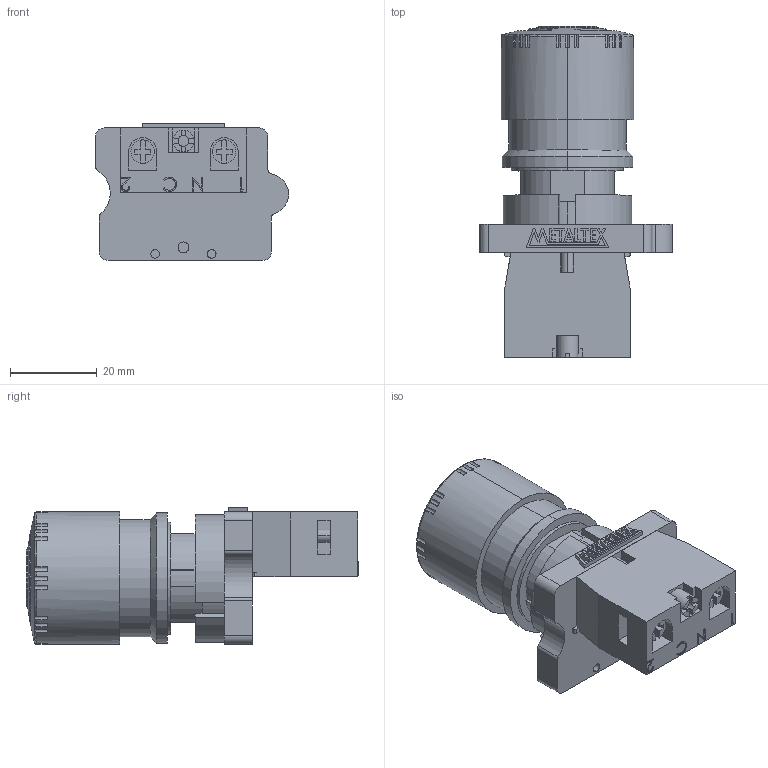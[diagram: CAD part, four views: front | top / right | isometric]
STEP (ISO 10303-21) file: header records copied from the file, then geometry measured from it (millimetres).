
FILE_DESCRIPTION (( 'STEP AP203' ), '1' );
FILE_NAME ('P20AXR-R-1B.STEP', '2018-01-17T13:58:42', ( '' ), ( '' ), 'SwSTEP 2.0', 'SolidWorks 2012', '' );
FILE_SCHEMA (( 'CONFIG_CONTROL_DESIGN' ));
Length unit declared in the file: millimetre
Products named in the file (4): M20-1B; P20AXR; METALTEX 18,98; P20AXR-R-1B
Assembly tree (3 placements, depth 2):
  P20AXR-R-1B
    P20AXR
    M20-1B
    METALTEX 18,98
Bounding box: 44.44 x 76.41 x 31.5 mm (x, y, z)
Volume: 45719 mm3; surface area: 13038.8 mm2
Topology: 9 solids, 9 shells, 451 faces, 1212 edges, 803 vertices
Faces by surface type: plane 283, cylinder 115, torus 28, bspline 15, sphere 8, cone 2
Entity records: 15766 total; most frequent: CARTESIAN_POINT 3964, ORIENTED_EDGE 2424, DIRECTION 2322, EDGE_CURVE 1212, VERTEX_POINT 803, AXIS2_PLACEMENT_3D 783, VECTOR 756, LINE 756
